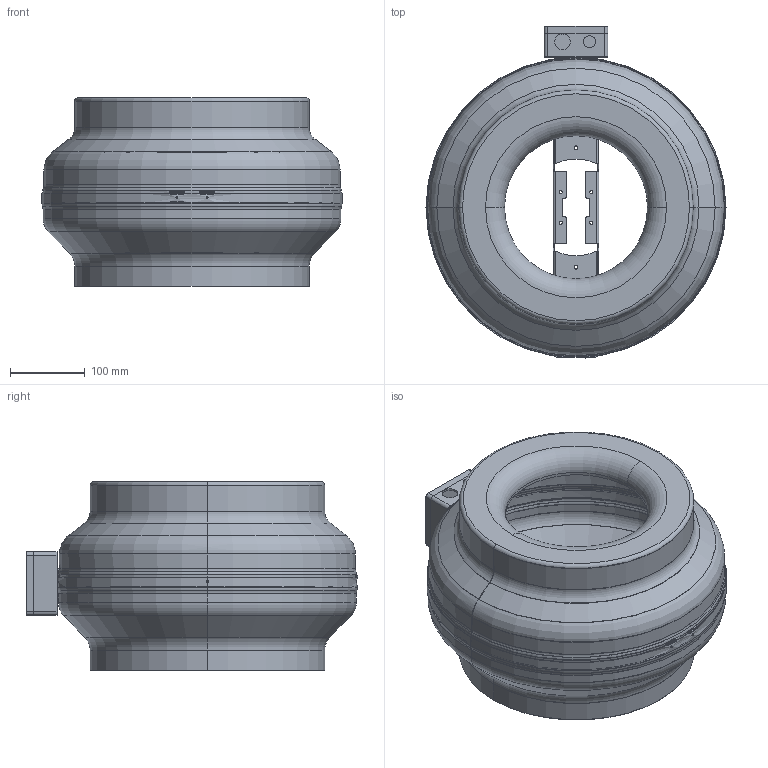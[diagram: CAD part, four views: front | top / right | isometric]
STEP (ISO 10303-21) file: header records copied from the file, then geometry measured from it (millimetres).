
FILE_DESCRIPTION (( 'STEP AP203' ), '1' );
FILE_NAME ('131515-00_RS315LEC.STEP', '2015-02-19T11:16:49', ( '' ), ( '' ), 'SwSTEP 2.0', 'SolidWorks 2012', '' );
FILE_SCHEMA (( 'CONFIG_CONTROL_DESIGN' ));
Length unit declared in the file: millimetre
Products named in the file (1): 131515-00_RS315LEC
Bounding box: 401.75 x 444.53 x 253 mm (x, y, z)
Surface area: 874141 mm2 (no closed solid volume)
Topology: 0 solids, 11 shells, 222 faces, 778 edges, 547 vertices
Faces by surface type: cylinder 99, plane 73, torus 42, cone 8
Entity records: 9676 total; most frequent: CARTESIAN_POINT 2929, DIRECTION 1447, ORIENTED_EDGE 1200, EDGE_CURVE 778, VERTEX_POINT 547, AXIS2_PLACEMENT_3D 531, LINE 385, VECTOR 385
